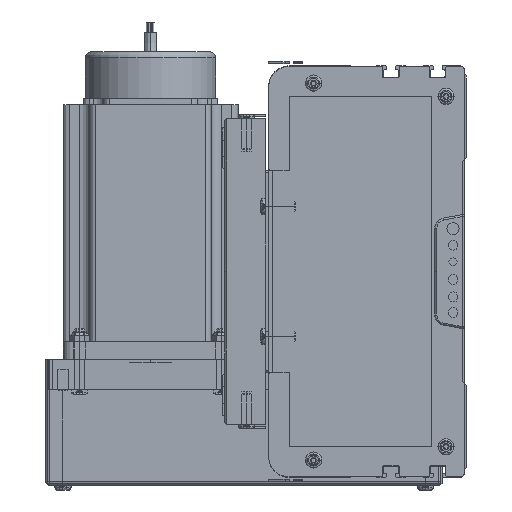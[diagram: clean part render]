
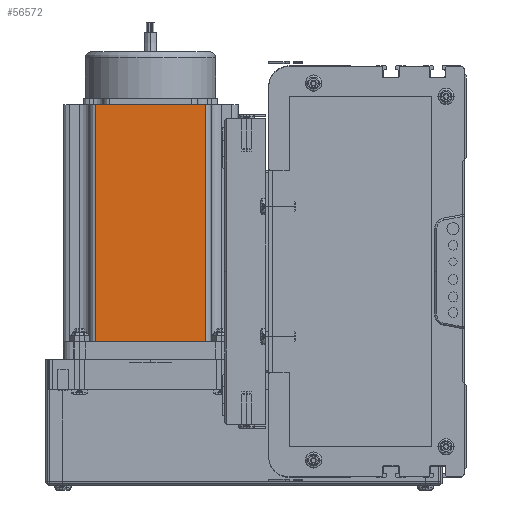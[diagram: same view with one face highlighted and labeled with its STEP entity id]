
A CAD part, left-side view. The second image highlights one B-rep face of the part: STEP entity #56572.
In plain terms, the highlighted planar face has unit normal (-1, 0, 0) as drawn and (0, -1, 0) by its records, which use the part's own axes.
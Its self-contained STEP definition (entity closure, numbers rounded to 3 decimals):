
#56089 = ORIENTED_EDGE ( 'NONE', *, *, #57229, .F. ) ;
#56561 = VERTEX_POINT ( 'NONE', #58852 ) ;
#56572 = ADVANCED_FACE ( 'NONE', ( #58843 ), #58869, .F. ) ;
#56575 = ORIENTED_EDGE ( 'NONE', *, *, #56580, .T. ) ;
#56577 = ORIENTED_EDGE ( 'NONE', *, *, #57195, .T. ) ;
#56580 = EDGE_CURVE ( 'NONE', #57209, #56561, #58818, .T. ) ;
#56660 = ORIENTED_EDGE ( 'NONE', *, *, #56858, .T. ) ;
#56833 = EDGE_LOOP ( 'NONE', ( #56577, #56575, #56089, #56660 ) ) ;
#56858 = EDGE_CURVE ( 'NONE', #56929, #57206, #63227, .T. ) ;
#56929 = VERTEX_POINT ( 'NONE', #63375 ) ;
#57195 = EDGE_CURVE ( 'NONE', #57206, #57209, #63637, .T. ) ;
#57206 = VERTEX_POINT ( 'NONE', #63722 ) ;
#57209 = VERTEX_POINT ( 'NONE', #63719 ) ;
#57229 = EDGE_CURVE ( 'NONE', #56929, #56561, #63693, .T. ) ;
#58818 = LINE ( 'NONE', #58974, #58964 ) ;
#58840 = AXIS2_PLACEMENT_3D ( 'NONE', #58979, #58977, #58976 ) ;
#58843 = FACE_OUTER_BOUND ( 'NONE', #56833, .T. ) ;
#58852 = CARTESIAN_POINT ( 'NONE',  ( 69.74, 0., 116.5 ) ) ;
#58869 = PLANE ( 'NONE',  #58840 ) ;
#58964 = VECTOR ( 'NONE', #58971, 1000. ) ;
#58971 = DIRECTION ( 'NONE',  ( 0., 0., 1. ) ) ;
#58974 = CARTESIAN_POINT ( 'NONE',  ( 69.74, 0., 116.5 ) ) ;
#58976 = DIRECTION ( 'NONE',  ( 0., 0., 1. ) ) ;
#58977 = DIRECTION ( 'NONE',  ( 0., 1., 0. ) ) ;
#58979 = CARTESIAN_POINT ( 'NONE',  ( 0., 0., 116.5 ) ) ;
#63224 = DIRECTION ( 'NONE',  ( 0., 0., -1. ) ) ;
#63225 = VECTOR ( 'NONE', #63224, 1000. ) ;
#63226 = CARTESIAN_POINT ( 'NONE',  ( 16.16, 0., 116.5 ) ) ;
#63227 = LINE ( 'NONE', #63226, #63225 ) ;
#63375 = CARTESIAN_POINT ( 'NONE',  ( 16.16, 0., 116.5 ) ) ;
#63634 = DIRECTION ( 'NONE',  ( 1., 0., 0. ) ) ;
#63635 = VECTOR ( 'NONE', #63634, 1000. ) ;
#63636 = CARTESIAN_POINT ( 'NONE',  ( 0., 0., 0. ) ) ;
#63637 = LINE ( 'NONE', #63636, #63635 ) ;
#63671 = DIRECTION ( 'NONE',  ( 1., 0., 0. ) ) ;
#63673 = VECTOR ( 'NONE', #63671, 1000. ) ;
#63683 = CARTESIAN_POINT ( 'NONE',  ( 0., 0., 116.5 ) ) ;
#63693 = LINE ( 'NONE', #63683, #63673 ) ;
#63719 = CARTESIAN_POINT ( 'NONE',  ( 69.74, 0., 0. ) ) ;
#63722 = CARTESIAN_POINT ( 'NONE',  ( 16.16, 0., 0. ) ) ;
